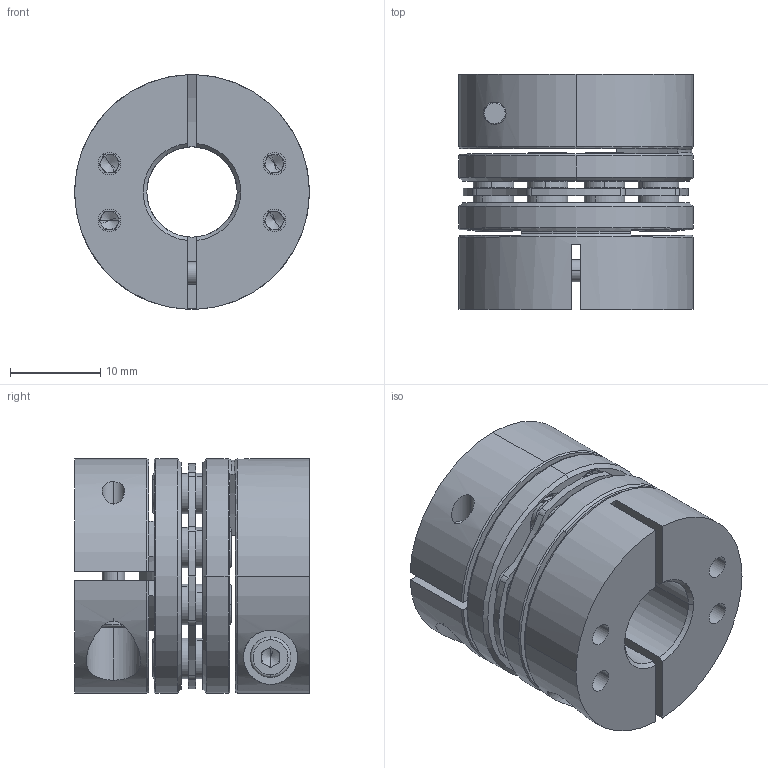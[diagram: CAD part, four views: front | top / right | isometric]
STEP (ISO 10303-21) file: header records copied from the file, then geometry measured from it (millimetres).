
FILE_DESCRIPTION (( 'STEP AP203' ), '1' );
FILE_NAME ('LDG-D26-10-10.STEP', '2021-10-28T04:30:02', ( '' ), ( '' ), 'SwSTEP 2.0', 'SolidWorks 2018', '' );
FILE_SCHEMA (( 'CONFIG_CONTROL_DESIGN' ));
Length unit declared in the file: millimetre
Products named in the file (2): 錨璃2^LDG-D26蚾饜芞1; LDG-D26-10-10
Assembly tree (1 placements, depth 2):
  LDG-D26-10-10
    錨璃2^LDG-D26蚾饜芞1
Bounding box: 26 x 26 x 26 mm (x, y, z)
Volume: 9525.3 mm3; surface area: 8906.7 mm2
Topology: 1 solids, 21 shells, 765 faces, 1872 edges, 1159 vertices
Faces by surface type: cylinder 301, plane 244, cone 200, torus 20
Entity records: 23057 total; most frequent: DIRECTION 4281, CARTESIAN_POINT 4164, ORIENTED_EDGE 3688, EDGE_CURVE 1844, AXIS2_PLACEMENT_3D 1740, VERTEX_POINT 1159, CIRCLE 971, EDGE_LOOP 909
